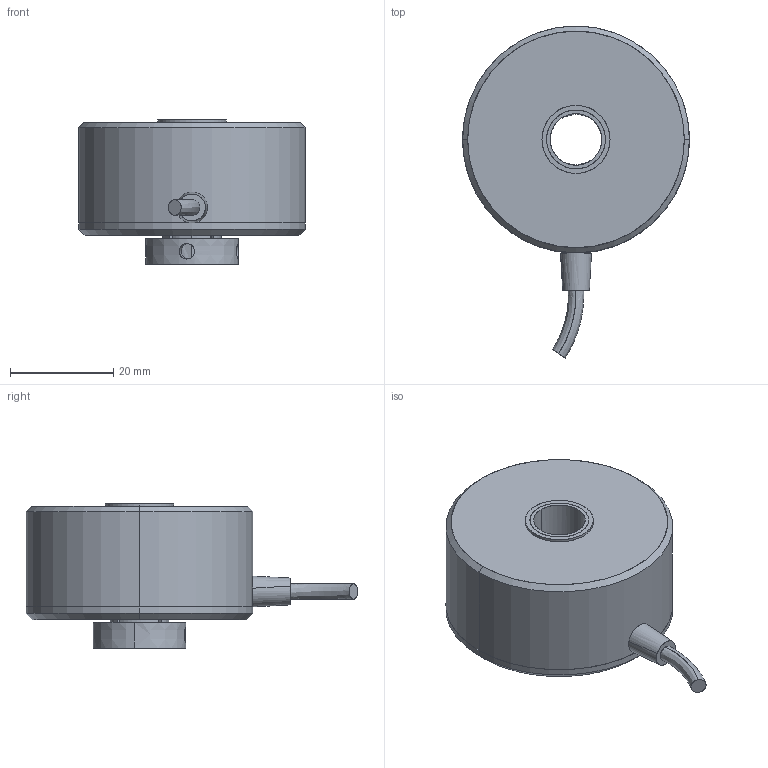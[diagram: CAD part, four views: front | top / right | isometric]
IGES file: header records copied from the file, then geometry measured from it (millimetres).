
Start section: SolidWorks IGES file using analytic representation for surfaces
Bounding box: 44 x 64.36 x 28 mm (x, y, z)
Surface area: 12549.7 mm2 (no closed solid volume)
Topology: 0 solids, 0 shells, 72 faces, 1692 edges, 1692 vertices
Faces by surface type: revolution 38, bspline 34
